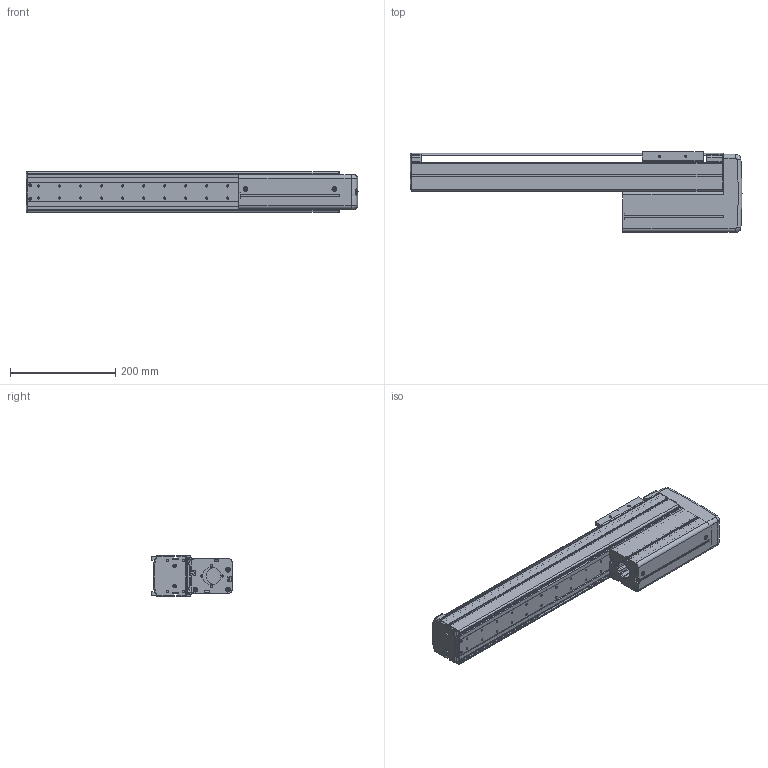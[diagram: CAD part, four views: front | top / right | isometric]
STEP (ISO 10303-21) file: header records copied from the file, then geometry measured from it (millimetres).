
FILE_DESCRIPTION((''),'2;1');
FILE_NAME('BE10E-UU-M_B-40_IGS_PRT','2017-06-17T',(' '),(''),'PRO/ENGINEER BY PARAMETRIC TECHNOLOGY CORPORATION, 2015030','PRO/ENGINEER BY PARAMETRIC TECHNOLOGY CORPORATION, 2015030','');
FILE_SCHEMA(('CONFIG_CONTROL_DESIGN'));
Length unit declared in the file: millimetre
Products named in the file (1): BE10E-UU-M_B-40_IGS_PRT
Bounding box: 632 x 153 x 78 mm (x, y, z)
Volume: 1085860.7 mm3; surface area: 750077.9 mm2
Topology: 2 solids, 103 shells, 1756 faces, 4740 edges, 3065 vertices
Faces by surface type: cylinder 825, plane 703, cone 81, torus 71, sphere 44, bspline 32
Entity records: 57339 total; most frequent: CARTESIAN_POINT 12101, DIRECTION 9808, ORIENTED_EDGE 9022, EDGE_CURVE 4706, AXIS2_PLACEMENT_3D 3639, VERTEX_POINT 3065, VECTOR 2530, LINE 2530
